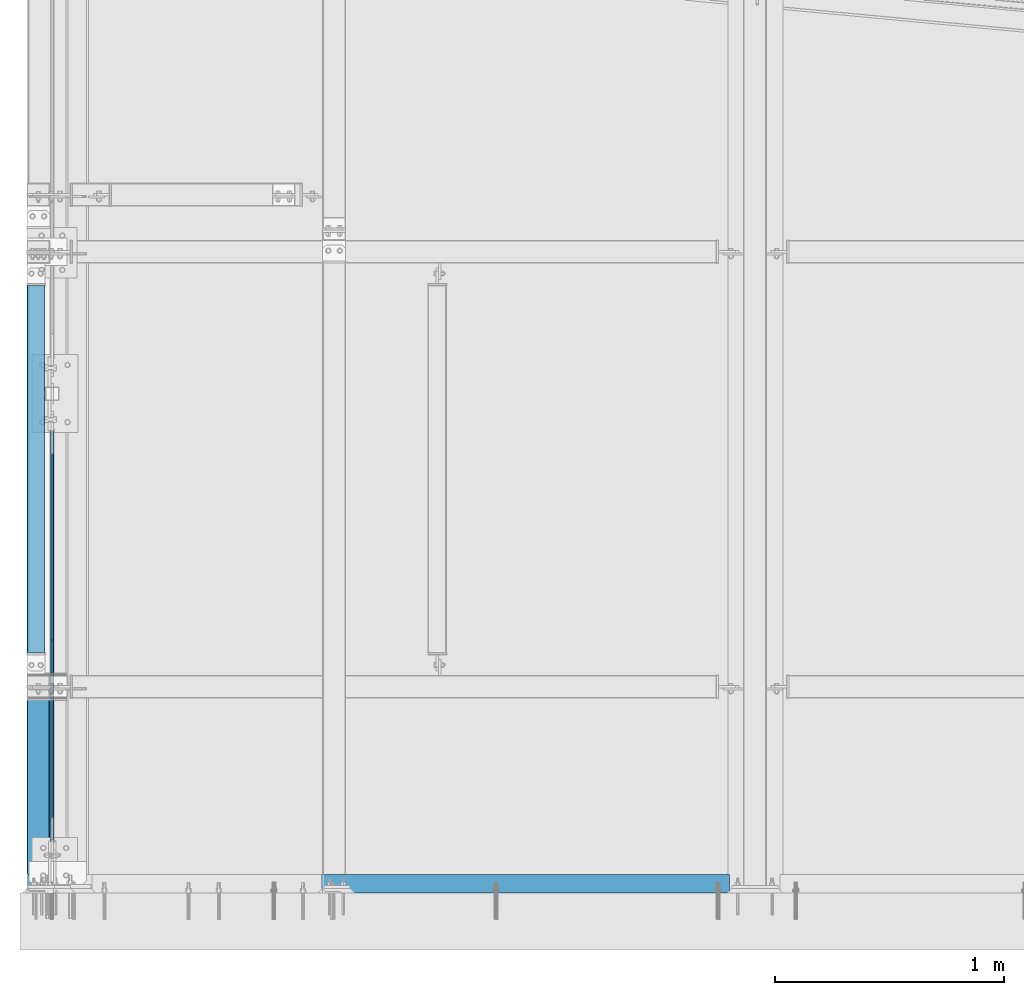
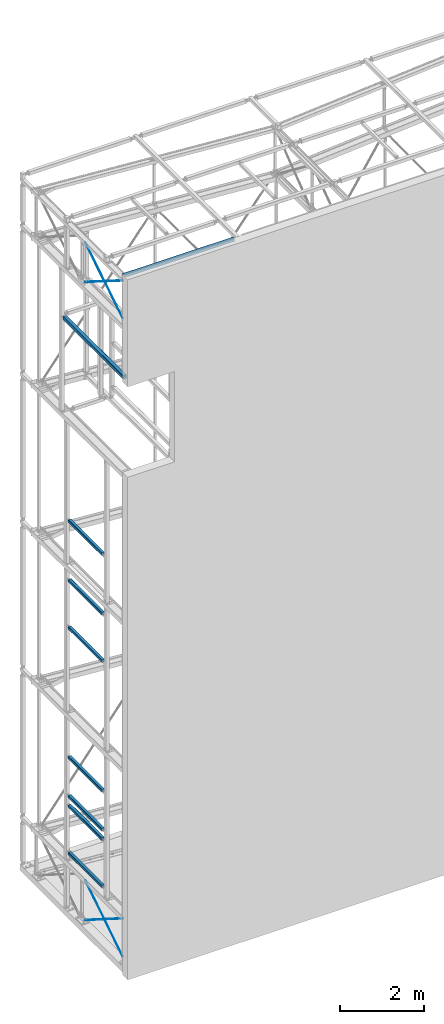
# One storey, part 9 of 271: 9 beams, 4 members, 13 elements without a shape of their own.
"""IFC2X3 building model written with IfcOpenShell, lengths in millimetres."""

from ifc_helpers import new_model, si_unit, frame, origin_with_axes, origin_2d_with_axis, place, context, subcontext, project, spatial, hollow_rectangle, circle, l_section, extrude, clip, halfspace, material, type_object, element, aggregate, save


model = new_model("IFC2X3")

# Units and contexts
model_context = context("Model", 3, precision=1e-05, world=origin_with_axes())
body_context = subcontext(model_context, "Body", "Model", "MODEL_VIEW")
ifc_project = project(units=[si_unit("LENGTHUNIT", "METRE", prefix="MILLI"), si_unit("AREAUNIT", "SQUARE_METRE"), si_unit("VOLUMEUNIT", "CUBIC_METRE"), si_unit("MASSUNIT", "GRAM", prefix="KILO"), si_unit("TIMEUNIT", "SECOND"), si_unit("PLANEANGLEUNIT", "RADIAN"), si_unit("SOLIDANGLEUNIT", "STERADIAN"), si_unit("THERMODYNAMICTEMPERATUREUNIT", "DEGREE_CELSIUS"), si_unit("LUMINOUSINTENSITYUNIT", "LUMEN")], contexts=[model_context])

# Site, building, storey
site_placement = place(None, origin_with_axes())
site = spatial("IfcSite", under=ifc_project, at=site_placement, Name="Undefined", CompositionType="ELEMENT")
building_placement = place(site_placement, origin_with_axes())
building = spatial("IfcBuilding", under=site, at=building_placement, Name="Undefined", CompositionType="ELEMENT")
storey_placement = place(building_placement, origin_with_axes())
storey = spatial("IfcBuildingStorey", under=building, at=storey_placement, Name="Undefined", CompositionType="ELEMENT", Elevation=0.0)

# Assembly, beam
assembly_1_placement = place(storey_placement, origin_with_axes())
assembly_1 = element("IfcElementAssembly", 1, at=assembly_1_placement, inside=storey, AssemblyPlace="NOTDEFINED", PredefinedType="RIGID_FRAME")
ifc_material = material(Name="STEEL/S355JR")
beam_type_1 = type_object("IfcBeamType", Name="SHS100*3", PredefinedType="NOTDEFINED")
beam_1_placement = place(assembly_1_placement, frame((38.3756870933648, 2999.05211980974, 17194.3499999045), z_axis=(-1.0, 0.0, 1.38777878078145e-17), x_axis=(0.0, -1.0, 0.0)))
beam_1 = element("IfcBeam", 2, at=beam_1_placement, type_object=beam_type_1, material=ifc_material, Name="SŁUPEK", ObjectType="SHS100*3", context=body_context, shape_type="Clipping", body=[
    clip(clip(extrude(hollow_rectangle(XDim=100.0, YDim=100.0, WallThickness=3.0, InnerFilletRadius=3.0, OuterFilletRadius=6.0, at=origin_2d_with_axis()), frame((3000.0, 0.0, 0.0), z_axis=(-1.0, 0.0, 1.38777878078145e-17), x_axis=(0.0, -1.0, 0.0)), (0.0, 0.0, 1.0), 3000.0), halfspace(frame((2968.0, -50.0, 0.0), z_axis=(-1.0, 0.0, 1.38777878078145e-17), x_axis=(0.0, 0.0, -1.0)), True)), halfspace(frame((98.0000000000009, -15.0, 0.0), z_axis=(1.0, 0.0, 0.0), x_axis=(0.0, 0.0, 1.0)), True)),
])
aggregate(assembly_1, [beam_1])

assembly_2_placement = place(storey_placement, origin_with_axes())
assembly_2 = element("IfcElementAssembly", 3, at=assembly_2_placement, inside=storey, AssemblyPlace="NOTDEFINED", PredefinedType="RIGID_FRAME")
beam_type_2 = type_object("IfcBeamType", Name="SHS80*3", PredefinedType="NOTDEFINED")
beam_2_placement = place(assembly_2_placement, frame((28.375687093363, 2749.05910088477, 4498.8500000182), z_axis=(1.0, 0.0, 0.0), x_axis=(0.0, -1.0, 0.0)))
beam_2 = element("IfcBeam", 4, at=beam_2_placement, type_object=beam_type_2, material=ifc_material, Name="SŁUPEK", ObjectType="SHS80*3", context=body_context, shape_type="Clipping", body=[
    clip(clip(extrude(hollow_rectangle(XDim=80.0, YDim=80.0, WallThickness=3.0, InnerFilletRadius=3.0, OuterFilletRadius=6.0, at=origin_2d_with_axis()), frame((1800.00027110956, 0.0, 0.0), z_axis=(-1.0, 0.0, 1.38777878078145e-17), x_axis=(0.0, -1.0, 0.0)), (0.0, 0.0, 1.0), 1800.0), halfspace(frame((1702.00698107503, 15.0, 0.0), z_axis=(-1.0, 0.0, 1.38777878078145e-17), x_axis=(0.0, 0.0, 1.0)), True)), halfspace(frame((98.0069810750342, 15.0, 0.0), z_axis=(1.0, 0.0, 0.0), x_axis=(0.0, 0.0, -1.0)), True)),
])
aggregate(assembly_2, [beam_2])

assembly_3_placement = place(storey_placement, origin_with_axes())
assembly_3 = element("IfcElementAssembly", 5, at=assembly_3_placement, inside=storey, AssemblyPlace="NOTDEFINED", PredefinedType="RIGID_FRAME")
beam_3_placement = place(assembly_3_placement, frame((28.375687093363, 2749.05910088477, 3358.8500000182), z_axis=(1.0, 0.0, 0.0), x_axis=(0.0, -1.0, 0.0)))
beam_3 = element("IfcBeam", 6, at=beam_3_placement, type_object=beam_type_2, material=ifc_material, Name="SŁUPEK", ObjectType="SHS80*3", context=body_context, shape_type="Clipping", body=[
    clip(clip(extrude(hollow_rectangle(XDim=80.0, YDim=80.0, WallThickness=3.0, InnerFilletRadius=3.0, OuterFilletRadius=6.0, at=origin_2d_with_axis()), frame((1800.00027110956, 0.0, 0.0), z_axis=(-1.0, 0.0, 1.38777878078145e-17), x_axis=(0.0, -1.0, 0.0)), (0.0, 0.0, 1.0), 1800.0), halfspace(frame((1702.00698107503, -15.0, 0.0), z_axis=(-1.0, 0.0, 1.38777878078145e-17), x_axis=(0.0, 0.0, -1.0)), True)), halfspace(frame((98.0069810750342, -15.0, 0.0), z_axis=(1.0, 0.0, 0.0), x_axis=(0.0, 0.0, 1.0)), True)),
])
aggregate(assembly_3, [beam_3])

assembly_4_placement = place(storey_placement, origin_with_axes())
assembly_4 = element("IfcElementAssembly", 7, at=assembly_4_placement, inside=storey, AssemblyPlace="NOTDEFINED", PredefinedType="RIGID_FRAME")
beam_4_placement = place(assembly_4_placement, frame((28.375687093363, 2749.05896533, 3079.3500000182), z_axis=(1.0, 0.0, 0.0), x_axis=(0.0, -1.0, 0.0)))
beam_4 = element("IfcBeam", 8, at=beam_4_placement, type_object=beam_type_2, material=ifc_material, Name="SŁUPEK", ObjectType="SHS80*3", context=body_context, shape_type="Clipping", body=[
    clip(clip(extrude(hollow_rectangle(XDim=80.0, YDim=80.0, WallThickness=3.0, InnerFilletRadius=3.0, OuterFilletRadius=6.0, at=origin_2d_with_axis()), frame((1800.00027110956, 0.0, 0.0), z_axis=(-1.0, 0.0, 1.38777878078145e-17), x_axis=(0.0, -1.0, 0.0)), (0.0, 0.0, 1.0), 1800.0), halfspace(frame((1702.00684552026, 15.0, 0.0), z_axis=(-1.0, 0.0, 1.38777878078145e-17), x_axis=(0.0, 0.0, 1.0)), True)), halfspace(frame((98.0068455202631, 15.0, 0.0), z_axis=(1.0, 0.0, 0.0), x_axis=(0.0, 0.0, -1.0)), True)),
])
aggregate(assembly_4, [beam_4])

assembly_5_placement = place(storey_placement, origin_with_axes())
assembly_5 = element("IfcElementAssembly", 9, at=assembly_5_placement, inside=storey, AssemblyPlace="NOTDEFINED", PredefinedType="RIGID_FRAME")
beam_5_placement = place(assembly_5_placement, frame((28.375687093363, 2749.05896533, 1699.3500000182), z_axis=(1.0, 0.0, 0.0), x_axis=(0.0, -1.0, 0.0)))
beam_5 = element("IfcBeam", 10, at=beam_5_placement, type_object=beam_type_2, material=ifc_material, Name="SŁUPEK", ObjectType="SHS80*3", context=body_context, shape_type="Clipping", body=[
    clip(clip(extrude(hollow_rectangle(XDim=80.0, YDim=80.0, WallThickness=3.0, InnerFilletRadius=3.0, OuterFilletRadius=6.0, at=origin_2d_with_axis()), frame((1800.00027110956, 0.0, 0.0), z_axis=(-1.0, 0.0, 1.38777878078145e-17), x_axis=(0.0, -1.0, 0.0)), (0.0, 0.0, 1.0), 1800.0), halfspace(frame((1702.00684552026, -15.0, 0.0), z_axis=(-1.0, 0.0, 1.38777878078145e-17), x_axis=(0.0, 0.0, -1.0)), True)), halfspace(frame((98.0068455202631, -15.0, 0.0), z_axis=(1.0, 0.0, 0.0), x_axis=(0.0, 0.0, 1.0)), True)),
])
aggregate(assembly_5, [beam_5])

assembly_6_placement = place(storey_placement, origin_with_axes())
assembly_6 = element("IfcElementAssembly", 11, at=assembly_6_placement, inside=storey, AssemblyPlace="NOTDEFINED", PredefinedType="RIGID_FRAME")
beam_6_placement = place(assembly_6_placement, frame((28.375687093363, 2749.05225536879, 9669.84999990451), z_axis=(1.0, 0.0, 0.0), x_axis=(0.0, -1.0, 0.0)))
beam_6 = element("IfcBeam", 12, at=beam_6_placement, type_object=beam_type_2, material=ifc_material, Name="SŁUPEK", ObjectType="SHS80*3", context=body_context, shape_type="Clipping", body=[
    clip(clip(extrude(hollow_rectangle(XDim=80.0, YDim=80.0, WallThickness=3.0, InnerFilletRadius=3.0, OuterFilletRadius=6.0, at=origin_2d_with_axis()), frame((1800.00027110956, 0.0, 0.0), z_axis=(-1.0, 0.0, 1.38777878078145e-17), x_axis=(0.0, -1.0, 0.0)), (0.0, 0.0, 1.0), 1800.0), halfspace(frame((1702.00013555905, 15.0, 0.0), z_axis=(-1.0, 0.0, 1.38777878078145e-17), x_axis=(0.0, 0.0, 1.0)), True)), halfspace(frame((98.0001355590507, 15.0, 0.0), z_axis=(1.0, 0.0, 0.0), x_axis=(0.0, 0.0, -1.0)), True)),
])
aggregate(assembly_6, [beam_6])

assembly_7_placement = place(storey_placement, origin_with_axes())
assembly_7 = element("IfcElementAssembly", 13, at=assembly_7_placement, inside=storey, AssemblyPlace="NOTDEFINED", PredefinedType="RIGID_FRAME")
beam_7_placement = place(assembly_7_placement, frame((28.375687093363, 2749.05225536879, 8289.84999990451), z_axis=(1.0, 0.0, 0.0), x_axis=(0.0, -1.0, 0.0)))
beam_7 = element("IfcBeam", 14, at=beam_7_placement, type_object=beam_type_2, material=ifc_material, Name="SŁUPEK", ObjectType="SHS80*3", context=body_context, shape_type="Clipping", body=[
    clip(clip(extrude(hollow_rectangle(XDim=80.0, YDim=80.0, WallThickness=3.0, InnerFilletRadius=3.0, OuterFilletRadius=6.0, at=origin_2d_with_axis()), frame((1800.00027110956, 0.0, 0.0), z_axis=(-1.0, 0.0, 1.38777878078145e-17), x_axis=(0.0, -1.0, 0.0)), (0.0, 0.0, 1.0), 1800.0), halfspace(frame((1702.00013555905, -15.0, 0.0), z_axis=(-1.0, 0.0, 1.38777878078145e-17), x_axis=(0.0, 0.0, -1.0)), True)), halfspace(frame((98.0001355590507, -15.0, 0.0), z_axis=(1.0, 0.0, 0.0), x_axis=(0.0, 0.0, 1.0)), True)),
])
aggregate(assembly_7, [beam_7])

assembly_8_placement = place(storey_placement, origin_with_axes())
assembly_8 = element("IfcElementAssembly", 15, at=assembly_8_placement, inside=storey, AssemblyPlace="NOTDEFINED", PredefinedType="RIGID_FRAME")
beam_8_placement = place(assembly_8_placement, frame((28.375687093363, 2749.05225536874, 11411.8499999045), z_axis=(1.0, 0.0, 0.0), x_axis=(0.0, -1.0, 0.0)))
beam_8 = element("IfcBeam", 16, at=beam_8_placement, type_object=beam_type_2, material=ifc_material, Name="SŁUPEK", ObjectType="SHS80*3", context=body_context, shape_type="Clipping", body=[
    clip(clip(extrude(hollow_rectangle(XDim=80.0, YDim=80.0, WallThickness=3.0, InnerFilletRadius=3.0, OuterFilletRadius=6.0, at=origin_2d_with_axis()), frame((1800.00027110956, 0.0, 0.0), z_axis=(-1.0, 0.0, 1.38777878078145e-17), x_axis=(0.0, -1.0, 0.0)), (0.0, 0.0, 1.0), 1800.0), halfspace(frame((1702.00013555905, 15.0, 0.0), z_axis=(-1.0, 0.0, 1.38777878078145e-17), x_axis=(0.0, 0.0, 1.0)), True)), halfspace(frame((98.0001355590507, 15.0, 0.0), z_axis=(1.0, 0.0, 0.0), x_axis=(0.0, 0.0, -1.0)), True)),
])
aggregate(assembly_8, [beam_8])

# Assembly, member
assembly_9_placement = place(storey_placement, origin_with_axes())
assembly_9 = element("IfcElementAssembly", 17, at=assembly_9_placement, inside=storey, AssemblyPlace="NOTDEFINED", PredefinedType="RIGID_FRAME")
member_type = type_object("IfcMemberType", Name="D16", PredefinedType="NOTDEFINED")
member_1_placement = place(assembly_9_placement, frame((98.9999996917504, 21.1935505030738, 18644.3499999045), z_axis=(0.0, 0.533166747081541, -0.846010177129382), x_axis=(0.0, 0.846010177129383, 0.533166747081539)))
member_1 = element("IfcMember", 18, at=member_1_placement, type_object=member_type, material=ifc_material, Name="STĘŻENIE", ObjectType="D16", context=body_context, shape_type="Clipping", body=[
    clip(clip(extrude(circle(Radius=8.0, at=origin_2d_with_axis()), frame((2550.79673827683, 0.0, 0.0), z_axis=(-1.0, 0.0, 1.38777878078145e-17), x_axis=(0.0, -1.0, 0.0)), (0.0, 0.0, 1.0), 2550.8), halfspace(frame((2358.77795301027, -18.0000003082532, 1.90993887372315e-10), z_axis=(-1.0, 0.0, 1.38777878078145e-17), x_axis=(0.0, 0.0, -1.0)), True)), halfspace(frame((244.398135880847, 15.9999996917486, -2.16459739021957e-10), z_axis=(1.0, 0.0, 0.0), x_axis=(0.0, 0.0, -1.0)), True)),
])
aggregate(assembly_9, [member_1])

assembly_10_placement = place(storey_placement, origin_with_axes())
assembly_10 = element("IfcElementAssembly", 19, at=assembly_10_placement, inside=storey, AssemblyPlace="NOTDEFINED", PredefinedType="RIGID_FRAME")
member_2_placement = place(assembly_10_placement, frame((98.9999996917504, 2179.19355050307, 18644.3499999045), z_axis=(0.0, 0.533166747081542, 0.846010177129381), x_axis=(0.0, -0.846010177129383, 0.533166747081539)))
member_2 = element("IfcMember", 20, at=member_2_placement, type_object=member_type, material=ifc_material, Name="STĘŻENIE", ObjectType="D16", context=body_context, shape_type="Clipping", body=[
    clip(clip(extrude(circle(Radius=8.0, at=origin_2d_with_axis()), frame((2550.79673827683, 0.0, 0.0), z_axis=(-1.0, 0.0, 1.38777878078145e-17), x_axis=(0.0, -1.0, 0.0)), (0.0, 0.0, 1.0), 2550.8), halfspace(frame((2307.61773402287, -16.0000003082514, -2.11002770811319e-10), z_axis=(-1.0, 0.0, 1.38777878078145e-17), x_axis=(0.0, 0.0, -1.0)), True)), halfspace(frame((193.237913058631, -18.0000003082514, 2.00088834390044e-10), z_axis=(1.0, 0.0, 0.0), x_axis=(0.0, 0.0, 1.0)), True)),
])
aggregate(assembly_10, [member_2])

assembly_11_placement = place(storey_placement, origin_with_axes())
assembly_11 = element("IfcElementAssembly", 21, at=assembly_11_placement, inside=storey, AssemblyPlace="NOTDEFINED", PredefinedType="RIGID_FRAME")
member_3_placement = place(assembly_11_placement, frame((98.9999996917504, 21.1935505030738, 1364.34999990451), z_axis=(0.0, 0.535126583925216, 0.84477188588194), x_axis=(0.0, 0.84477188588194, -0.535126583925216)))
member_3 = element("IfcMember", 22, at=member_3_placement, type_object=member_type, material=ifc_material, Name="STĘŻENIE", ObjectType="D16", context=body_context, shape_type="Clipping", body=[
    clip(clip(extrude(circle(Radius=8.0, at=origin_2d_with_axis()), frame((2554.53576995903, 1.4210854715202e-14, -1.41805221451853e-13), z_axis=(-1.0, 0.0, 1.38777878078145e-17), x_axis=(0.0, -1.0, 0.0)), (0.0, 0.0, 1.0), 2554.54), halfspace(frame((2362.62016605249, 17.9999996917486, -0.0628190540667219), z_axis=(-0.999999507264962, 0.0, -0.000992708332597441), x_axis=(-0.000992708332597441, 0.0, 0.999999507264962)), True)), halfspace(frame((243.804507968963, -16.0000003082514, 9.77706804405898e-12), z_axis=(1.0, 0.0, 0.0), x_axis=(0.0, 0.0, 1.0)), True)),
])
aggregate(assembly_11, [member_3])

assembly_12_placement = place(storey_placement, origin_with_axes())
assembly_12 = element("IfcElementAssembly", 23, at=assembly_12_placement, inside=storey, AssemblyPlace="NOTDEFINED", PredefinedType="RIGID_FRAME")
member_4_placement = place(assembly_12_placement, frame((98.9999996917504, 2179.19355050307, 1364.34999990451), z_axis=(0.0, 0.538389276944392, -0.842696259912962), x_axis=(0.0, -0.842696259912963, -0.538389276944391)))
member_4 = element("IfcMember", 24, at=member_4_placement, type_object=member_type, material=ifc_material, Name="STĘŻENIE", ObjectType="D16", context=body_context, shape_type="Clipping", body=[
    clip(clip(extrude(circle(Radius=8.0, at=origin_2d_with_axis()), frame((2563.2011235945, 0.0, 0.0), z_axis=(-1.0, 0.0, 1.38777878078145e-17), x_axis=(0.0, -1.0, 0.0)), (0.0, 0.0, 1.0), 2563.2), halfspace(frame((2317.21847123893, -16.0000003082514, -1.50635059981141e-12), z_axis=(-1.0, 0.0, 1.38777878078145e-17), x_axis=(0.0, 0.0, -1.0)), True)), halfspace(frame((192.059848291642, 17.9999996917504, -1.02318153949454e-11), z_axis=(1.0, 0.0, 0.0), x_axis=(0.0, 0.0, -1.0)), True)),
])
aggregate(assembly_12, [member_4])

# Assembly, beam
assembly_13_placement = place(storey_placement, origin_with_axes())
assembly_13 = element("IfcElementAssembly", 25, at=assembly_13_placement, inside=storey, AssemblyPlace="NOTDEFINED", PredefinedType="RIGID_FRAME")
beam_type_3 = type_object("IfcBeamType", Name="L80*80*6", PredefinedType="NOTDEFINED")
beam_9_placement = place(assembly_13_placement, frame((-11.6243129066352, 39.3249842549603, 20164.3499999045), z_axis=(0.0, 0.0, -1.0), x_axis=(1.0, 0.0, 0.0)))
beam_9 = element("IfcBeam", 26, at=beam_9_placement, type_object=beam_type_3, material=ifc_material, Name="KĄTOWNIK", ObjectType="L80*80*6", context=body_context, shape_type="Clipping", body=[
    clip(extrude(l_section(Depth=80.0, Width=80.0, Thickness=6.0, FilletRadius=9.0, at=origin_2d_with_axis()), frame((3070.0, 0.0, 0.0), z_axis=(-1.0, 0.0, 1.38777878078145e-17), x_axis=(0.0, -1.0, 0.0)), (0.0, 0.0, 1.0), 3070.4), halfspace(frame((80.0, 0.0, 40.0), z_axis=(-0.707106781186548, 0.0, 0.707106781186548), x_axis=(0.0, -1.0, 0.0)), False)),
])
aggregate(assembly_13, [beam_9])

save(model, "model.ifc")
